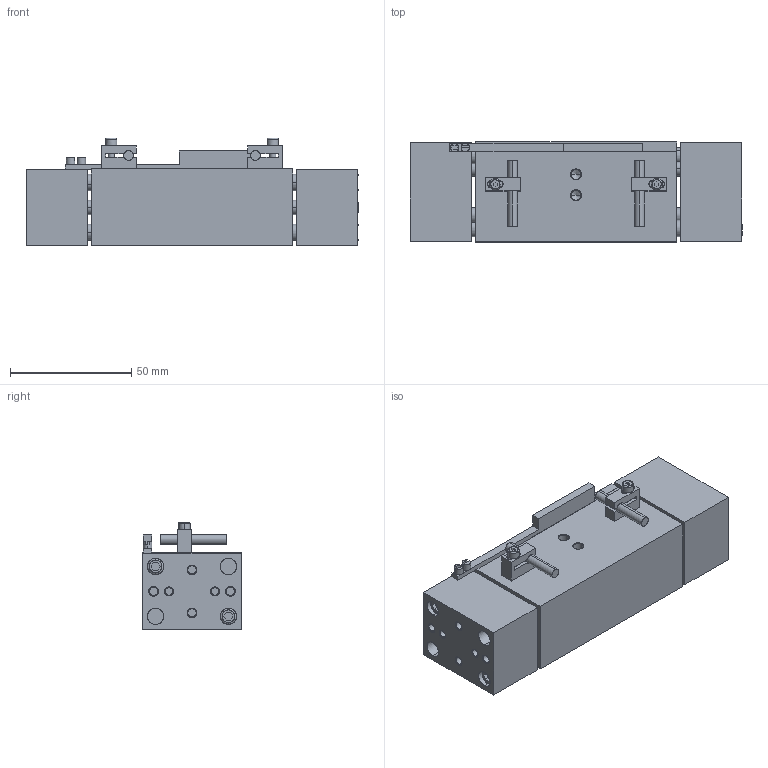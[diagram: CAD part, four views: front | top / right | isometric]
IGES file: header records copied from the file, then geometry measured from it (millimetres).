
Start section: SolidWorks IGES file using analytic representation for surfaces
Global section: file name: C:\Users\cad\Documents\A-my docs\AGW-250-3\iges\AGW-250-3-closed.IGS; native system: SolidWorks 2017; preprocessor: SolidWorks 2017; author: cad; date: 200515.142338; units: inch
Bounding box: 137.16 x 41.27 x 44.45 mm (x, y, z)
Surface area: 58666.2 mm2 (no closed solid volume)
Topology: 0 solids, 0 shells, 371 faces, 5306 edges, 5290 vertices
Faces by surface type: revolution 194, bspline 177
